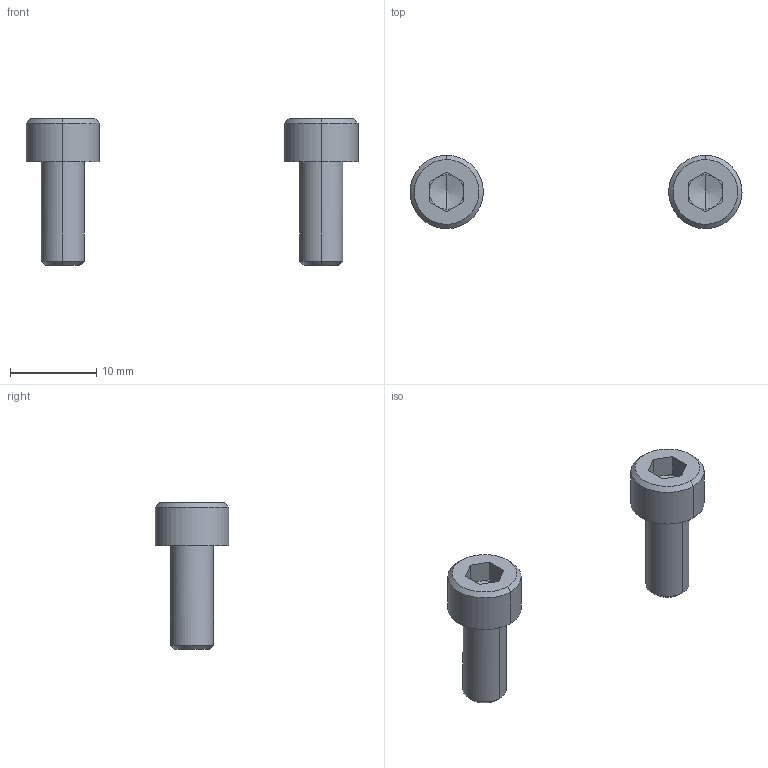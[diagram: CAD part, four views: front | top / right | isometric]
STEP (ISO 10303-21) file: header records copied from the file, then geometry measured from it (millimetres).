
FILE_DESCRIPTION(/* description */ (''),/* implementation_level */ '2;1');
FILE_NAME(/* name */ '8.x-drive#8.1#CB5-12',/* time_stamp */ '2014-12-01T20:17:51+01:00',/* author */ (''),/* organization */ (''),/* preprocessor_version */ 'ST-DEVELOPER v14',/* originating_system */ '',/* authorisation */ '');
FILE_SCHEMA (('AUTOMOTIVE_DESIGN'));
Length unit declared in the file: millimetre
Products named in the file (2): Document; screw DIN912-like, M5x12
Assembly tree (1 placements, depth 2):
  Document
    screw DIN912-like, M5x12
Bounding box: 38.5 x 8.5 x 17 mm (x, y, z)
Volume: 957.7 mm3; surface area: 915.7 mm2
Topology: 2 solids, 2 shells, 50 faces, 112 edges, 66 vertices
Faces by surface type: plane 30, bspline 20
Entity records: 2761 total; most frequent: CARTESIAN_POINT 1260, B_SPLINE_CURVE_WITH_KNOTS 252, ORIENTED_EDGE 216, PCURVE 216, DEFINITIONAL_REPRESENTATION 216, SURFACE_CURVE 108, EDGE_CURVE 108, VERTEX_POINT 66
